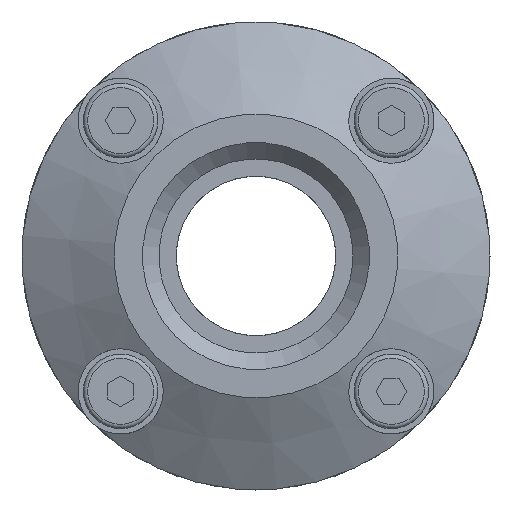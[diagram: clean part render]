
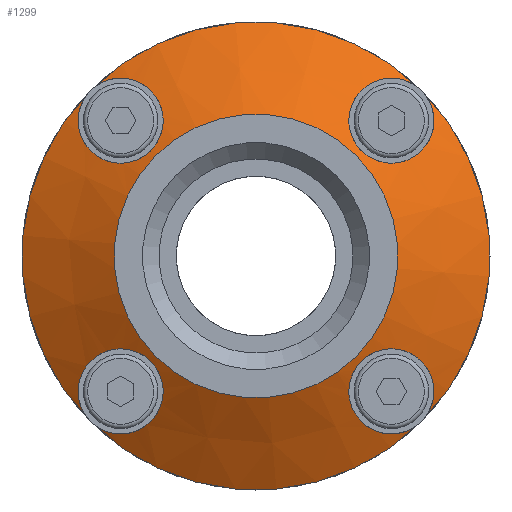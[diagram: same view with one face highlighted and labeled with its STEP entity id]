
A CAD part, front view. The second image highlights one B-rep face of the part: STEP entity #1299.
In plain terms, the highlighted conical face has half-angle 60 degrees and reference radius 22 mm.
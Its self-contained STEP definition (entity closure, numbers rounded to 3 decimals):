
#33=B_SPLINE_CURVE_WITH_KNOTS('',3,(#6432,#6433,#6434,#6435,#6436,#6437,
#6438,#6439,#6440,#6441,#6442,#6443,#6444,#6445,#6446,#6447,#6448,#6449),
 .UNSPECIFIED.,.T.,.F.,(2,2,2,2,2,2,2,2,2,2,2),(-0.125,0.,0.125,0.25,0.375,
0.5,0.625,0.75,0.875,1.,1.125),.UNSPECIFIED.);
#34=B_SPLINE_CURVE_WITH_KNOTS('',3,(#6450,#6451,#6452,#6453,#6454,#6455,
#6456,#6457,#6458,#6459,#6460,#6461,#6462,#6463,#6464,#6465,#6466,#6467),
 .UNSPECIFIED.,.T.,.F.,(2,2,2,2,2,2,2,2,2,2,2),(-0.125,0.,0.125,0.25,0.375,
0.5,0.625,0.75,0.875,1.,1.125),.UNSPECIFIED.);
#35=B_SPLINE_CURVE_WITH_KNOTS('',3,(#6468,#6469,#6470,#6471,#6472,#6473,
#6474,#6475,#6476,#6477,#6478,#6479,#6480,#6481,#6482,#6483,#6484,#6485),
 .UNSPECIFIED.,.T.,.F.,(2,2,2,2,2,2,2,2,2,2,2),(-0.125,0.,0.125,0.25,0.375,
0.5,0.625,0.75,0.875,1.,1.125),.UNSPECIFIED.);
#36=B_SPLINE_CURVE_WITH_KNOTS('',3,(#6486,#6487,#6488,#6489,#6490,#6491,
#6492,#6493,#6494,#6495,#6496,#6497,#6498,#6499,#6500,#6501,#6502,#6503),
 .UNSPECIFIED.,.T.,.F.,(2,2,2,2,2,2,2,2,2,2,2),(-0.125,0.,0.125,0.25,0.375,
0.5,0.625,0.75,0.875,1.,1.125),.UNSPECIFIED.);
#66=CONICAL_SURFACE('',#4349,22.,60.);
#956=FACE_BOUND('',#1969,.T.);
#957=FACE_BOUND('',#1970,.T.);
#1299=ADVANCED_FACE('',(#956,#957),#66,.T.);
#1969=EDGE_LOOP('',(#2626));
#1970=EDGE_LOOP('',(#2627,#2628,#2629,#2630,#2631,#2632,#2633,#2634));
#2626=ORIENTED_EDGE('',*,*,#3521,.F.);
#2627=ORIENTED_EDGE('',*,*,#3519,.F.);
#2628=ORIENTED_EDGE('',*,*,#3543,.F.);
#2629=ORIENTED_EDGE('',*,*,#3518,.F.);
#2630=ORIENTED_EDGE('',*,*,#3544,.F.);
#2631=ORIENTED_EDGE('',*,*,#3517,.F.);
#2632=ORIENTED_EDGE('',*,*,#3545,.F.);
#2633=ORIENTED_EDGE('',*,*,#3516,.F.);
#2634=ORIENTED_EDGE('',*,*,#3546,.F.);
#3159=VERTEX_POINT('',#6360);
#3160=VERTEX_POINT('',#6361);
#3161=VERTEX_POINT('',#6363);
#3162=VERTEX_POINT('',#6365);
#3164=VERTEX_POINT('',#6371);
#3516=EDGE_CURVE('',#3159,#3160,#3913,.T.);
#3517=EDGE_CURVE('',#3160,#3161,#3914,.T.);
#3518=EDGE_CURVE('',#3161,#3162,#3915,.T.);
#3519=EDGE_CURVE('',#3162,#3159,#3916,.T.);
#3521=EDGE_CURVE('',#3164,#3164,#3918,.T.);
#3543=EDGE_CURVE('',#3162,#3162,#33,.T.);
#3544=EDGE_CURVE('',#3161,#3161,#34,.T.);
#3545=EDGE_CURVE('',#3160,#3160,#35,.T.);
#3546=EDGE_CURVE('',#3159,#3159,#36,.T.);
#3913=CIRCLE('',#4303,22.);
#3914=CIRCLE('',#4304,22.);
#3915=CIRCLE('',#4305,22.);
#3916=CIRCLE('',#4306,22.);
#3918=CIRCLE('',#4309,13.34);
#4303=AXIS2_PLACEMENT_3D('',#6359,#5195,#5196);
#4304=AXIS2_PLACEMENT_3D('',#6362,#5197,#5198);
#4305=AXIS2_PLACEMENT_3D('',#6364,#5199,#5200);
#4306=AXIS2_PLACEMENT_3D('',#6366,#5201,#5202);
#4309=AXIS2_PLACEMENT_3D('',#6370,#5207,#5208);
#4349=AXIS2_PLACEMENT_3D('',#6504,#5287,#5288);
#5195=DIRECTION('',(0.,1.,0.));
#5196=DIRECTION('',(0.707,0.,-0.707));
#5197=DIRECTION('',(0.,1.,0.));
#5198=DIRECTION('',(0.707,0.,-0.707));
#5199=DIRECTION('',(0.,1.,0.));
#5200=DIRECTION('',(0.707,0.,-0.707));
#5201=DIRECTION('',(0.,1.,0.));
#5202=DIRECTION('',(0.707,0.,-0.707));
#5207=DIRECTION('',(0.,-1.,0.));
#5208=DIRECTION('',(0.707,0.,-0.707));
#5287=DIRECTION('',(0.,1.,0.));
#5288=DIRECTION('',(-0.707,0.,0.707));
#6359=CARTESIAN_POINT('',(0.,-42.5,0.));
#6360=CARTESIAN_POINT('',(-15.556,-42.5,15.556));
#6361=CARTESIAN_POINT('',(15.556,-42.5,15.556));
#6362=CARTESIAN_POINT('',(0.,-42.5,0.));
#6363=CARTESIAN_POINT('',(15.556,-42.5,-15.556));
#6364=CARTESIAN_POINT('',(0.,-42.5,0.));
#6365=CARTESIAN_POINT('',(-15.556,-42.5,-15.556));
#6366=CARTESIAN_POINT('',(0.,-42.5,0.));
#6370=CARTESIAN_POINT('',(0.,-47.5,0.));
#6371=CARTESIAN_POINT('',(9.433,-47.5,-9.433));
#6432=CARTESIAN_POINT('',(-16.361,-42.5,-14.752));
#6433=CARTESIAN_POINT('',(-14.752,-42.5,-16.361));
#6434=CARTESIAN_POINT('',(-13.617,-42.738,-16.772));
#6435=CARTESIAN_POINT('',(-11.476,-43.524,-16.675));
#6436=CARTESIAN_POINT('',(-10.521,-44.047,-16.206));
#6437=CARTESIAN_POINT('',(-9.16,-45.16,-14.786));
#6438=CARTESIAN_POINT('',(-8.755,-45.748,-13.849));
#6439=CARTESIAN_POINT('',(-8.703,-46.738,-11.81));
#6440=CARTESIAN_POINT('',(-9.102,-47.118,-10.698));
#6441=CARTESIAN_POINT('',(-10.694,-47.119,-9.104));
#6442=CARTESIAN_POINT('',(-11.82,-46.734,-8.702));
#6443=CARTESIAN_POINT('',(-13.85,-45.747,-8.756));
#6444=CARTESIAN_POINT('',(-14.798,-45.152,-9.167));
#6445=CARTESIAN_POINT('',(-16.212,-44.041,-10.531));
#6446=CARTESIAN_POINT('',(-16.679,-43.515,-11.5));
#6447=CARTESIAN_POINT('',(-16.77,-42.741,-13.61));
#6448=CARTESIAN_POINT('',(-16.361,-42.5,-14.752));
#6449=CARTESIAN_POINT('',(-14.752,-42.5,-16.361));
#6450=CARTESIAN_POINT('',(14.761,-42.5,-16.351));
#6451=CARTESIAN_POINT('',(16.351,-42.5,-14.761));
#6452=CARTESIAN_POINT('',(16.77,-42.74,-13.612));
#6453=CARTESIAN_POINT('',(16.678,-43.517,-11.495));
#6454=CARTESIAN_POINT('',(16.206,-44.047,-10.522));
#6455=CARTESIAN_POINT('',(14.794,-45.154,-9.166));
#6456=CARTESIAN_POINT('',(13.841,-45.751,-8.756));
#6457=CARTESIAN_POINT('',(11.828,-46.729,-8.703));
#6458=CARTESIAN_POINT('',(10.714,-47.117,-9.088));
#6459=CARTESIAN_POINT('',(9.095,-47.12,-10.701));
#6460=CARTESIAN_POINT('',(8.703,-46.739,-11.808));
#6461=CARTESIAN_POINT('',(8.756,-45.744,-13.856));
#6462=CARTESIAN_POINT('',(9.165,-45.153,-14.797));
#6463=CARTESIAN_POINT('',(10.536,-44.037,-16.216));
#6464=CARTESIAN_POINT('',(11.493,-43.517,-16.679));
#6465=CARTESIAN_POINT('',(13.627,-42.735,-16.769));
#6466=CARTESIAN_POINT('',(14.761,-42.5,-16.351));
#6467=CARTESIAN_POINT('',(16.351,-42.5,-14.761));
#6468=CARTESIAN_POINT('',(16.353,-42.5,14.76));
#6469=CARTESIAN_POINT('',(14.76,-42.5,16.353));
#6470=CARTESIAN_POINT('',(13.618,-42.738,16.771));
#6471=CARTESIAN_POINT('',(11.485,-43.52,16.677));
#6472=CARTESIAN_POINT('',(10.518,-44.049,16.203));
#6473=CARTESIAN_POINT('',(9.162,-45.158,14.788));
#6474=CARTESIAN_POINT('',(8.753,-45.755,13.834));
#6475=CARTESIAN_POINT('',(8.705,-46.735,11.815));
#6476=CARTESIAN_POINT('',(9.101,-47.12,10.696));
#6477=CARTESIAN_POINT('',(10.704,-47.118,9.097));
#6478=CARTESIAN_POINT('',(11.831,-46.729,8.699));
#6479=CARTESIAN_POINT('',(13.869,-45.736,8.761));
#6480=CARTESIAN_POINT('',(14.802,-45.15,9.168));
#6481=CARTESIAN_POINT('',(16.22,-44.034,10.542));
#6482=CARTESIAN_POINT('',(16.679,-43.517,11.492));
#6483=CARTESIAN_POINT('',(16.769,-42.735,13.628));
#6484=CARTESIAN_POINT('',(16.353,-42.5,14.76));
#6485=CARTESIAN_POINT('',(14.76,-42.5,16.353));
#6486=CARTESIAN_POINT('',(-14.756,-42.5,16.357));
#6487=CARTESIAN_POINT('',(-16.357,-42.5,14.756));
#6488=CARTESIAN_POINT('',(-16.771,-42.742,13.607));
#6489=CARTESIAN_POINT('',(-16.677,-43.519,11.491));
#6490=CARTESIAN_POINT('',(-16.205,-44.048,10.519));
#6491=CARTESIAN_POINT('',(-14.78,-45.164,9.156));
#6492=CARTESIAN_POINT('',(-13.839,-45.754,8.751));
#6493=CARTESIAN_POINT('',(-11.792,-46.745,8.706));
#6494=CARTESIAN_POINT('',(-10.684,-47.121,9.111));
#6495=CARTESIAN_POINT('',(-9.1,-47.117,10.703));
#6496=CARTESIAN_POINT('',(-8.7,-46.729,11.83));
#6497=CARTESIAN_POINT('',(-8.759,-45.742,13.857));
#6498=CARTESIAN_POINT('',(-9.174,-45.145,14.808));
#6499=CARTESIAN_POINT('',(-10.532,-44.041,16.211));
#6500=CARTESIAN_POINT('',(-11.51,-43.51,16.681));
#6501=CARTESIAN_POINT('',(-13.612,-42.741,16.768));
#6502=CARTESIAN_POINT('',(-14.756,-42.5,16.357));
#6503=CARTESIAN_POINT('',(-16.357,-42.5,14.756));
#6504=CARTESIAN_POINT('',(0.,-42.5,0.));
